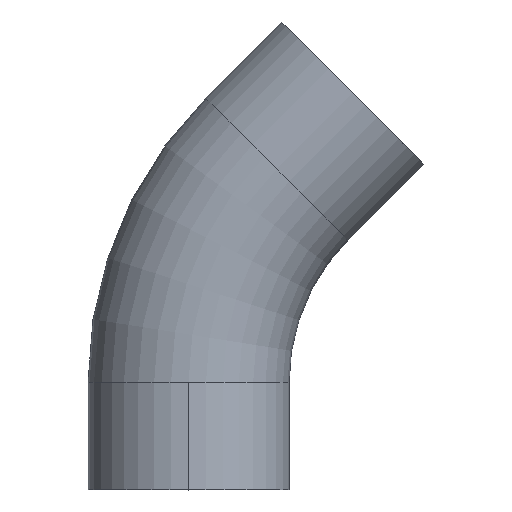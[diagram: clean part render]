
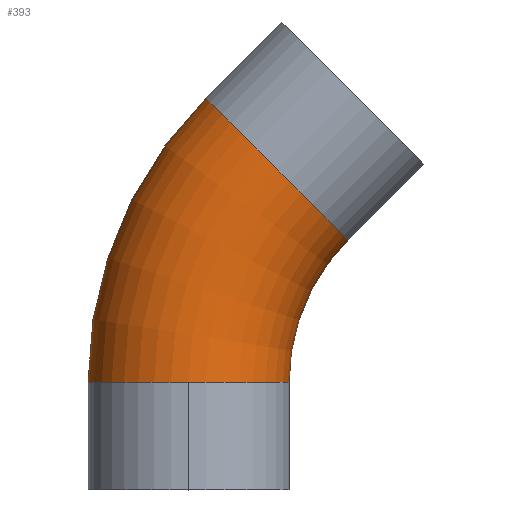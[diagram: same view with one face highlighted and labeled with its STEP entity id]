
A CAD part, top view. The second image highlights one B-rep face of the part: STEP entity #393.
In plain terms, the highlighted toroidal (fillet/blend) face has major radius 76.2 mm and minor radius 25.4 mm.
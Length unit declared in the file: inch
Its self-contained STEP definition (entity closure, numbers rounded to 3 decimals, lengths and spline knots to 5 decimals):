
#4 = TOROIDAL_SURFACE ( 'NONE', #194, 3., 1. ) ;
#12 = CARTESIAN_POINT ( 'NONE',  ( 0., 1.0694, 1. ) ) ;
#24 = DIRECTION ( 'NONE',  ( -1., 0., 0. ) ) ;
#33 = ORIENTED_EDGE ( 'NONE', *, *, #318, .F. ) ;
#44 = CARTESIAN_POINT ( 'NONE',  ( 1., 1.0694, 0. ) ) ;
#56 = CARTESIAN_POINT ( 'NONE',  ( -1., 1.0694, 0. ) ) ;
#63 = CARTESIAN_POINT ( 'NONE',  ( 0.17157, 3.89783, 0. ) ) ;
#80 = DIRECTION ( 'NONE',  ( 1., 0., 0. ) ) ;
#92 = DIRECTION ( 'NONE',  ( 0., 0., 1. ) ) ;
#95 = DIRECTION ( 'NONE',  ( 0., 0., 1. ) ) ;
#124 = CARTESIAN_POINT ( 'NONE',  ( 3., 1.0694, 0. ) ) ;
#138 = VERTEX_POINT ( 'NONE', #63 ) ;
#140 = VERTEX_POINT ( 'NONE', #384 ) ;
#185 = DIRECTION ( 'NONE',  ( 0., 1., 0. ) ) ;
#186 = AXIS2_PLACEMENT_3D ( 'NONE', #421, #185, #455 ) ;
#194 = AXIS2_PLACEMENT_3D ( 'NONE', #124, #405, #80 ) ;
#195 = ORIENTED_EDGE ( 'NONE', *, *, #333, .F. ) ;
#198 = FACE_OUTER_BOUND ( 'NONE', #462, .T. ) ;
#227 = DIRECTION ( 'NONE',  ( 0.707, 0.707, 0. ) ) ;
#241 = CIRCLE ( 'NONE', #287, 4. ) ;
#258 = CIRCLE ( 'NONE', #277, 1. ) ;
#271 = DIRECTION ( 'NONE',  ( 0., 1., 0. ) ) ;
#277 = AXIS2_PLACEMENT_3D ( 'NONE', #449, #227, #486 ) ;
#287 = AXIS2_PLACEMENT_3D ( 'NONE', #350, #95, #385 ) ;
#297 = VERTEX_POINT ( 'NONE', #44 ) ;
#314 = VERTEX_POINT ( 'NONE', #56 ) ;
#318 = EDGE_CURVE ( 'NONE', #140, #297, #452, .T. ) ;
#324 = EDGE_CURVE ( 'NONE', #314, #373, #436, .T. ) ;
#325 = EDGE_CURVE ( 'NONE', #138, #314, #241, .T. ) ;
#326 = ORIENTED_EDGE ( 'NONE', *, *, #324, .T. ) ;
#331 = AXIS2_PLACEMENT_3D ( 'NONE', #482, #271, #24 ) ;
#333 = EDGE_CURVE ( 'NONE', #138, #140, #258, .T. ) ;
#348 = CARTESIAN_POINT ( 'NONE',  ( 3., 1.0694, 0. ) ) ;
#350 = CARTESIAN_POINT ( 'NONE',  ( 3., 1.0694, 0. ) ) ;
#364 = AXIS2_PLACEMENT_3D ( 'NONE', #348, #92, #383 ) ;
#373 = VERTEX_POINT ( 'NONE', #12 ) ;
#383 = DIRECTION ( 'NONE',  ( 1., 0., 0. ) ) ;
#384 = CARTESIAN_POINT ( 'NONE',  ( 1.58579, 2.48361, 0. ) ) ;
#385 = DIRECTION ( 'NONE',  ( 1., 0., 0. ) ) ;
#393 = ADVANCED_FACE ( 'NONE', ( #198 ), #4, .T. ) ;
#405 = DIRECTION ( 'NONE',  ( 0., 0., 1. ) ) ;
#406 = ORIENTED_EDGE ( 'NONE', *, *, #325, .T. ) ;
#410 = CIRCLE ( 'NONE', #186, 1. ) ;
#421 = CARTESIAN_POINT ( 'NONE',  ( 0., 1.0694, 0. ) ) ;
#429 = ORIENTED_EDGE ( 'NONE', *, *, #453, .T. ) ;
#436 = CIRCLE ( 'NONE', #331, 1. ) ;
#449 = CARTESIAN_POINT ( 'NONE',  ( 0.87868, 3.19072, 0. ) ) ;
#452 = CIRCLE ( 'NONE', #364, 2. ) ;
#453 = EDGE_CURVE ( 'NONE', #373, #297, #410, .T. ) ;
#455 = DIRECTION ( 'NONE',  ( -1., 0., 0. ) ) ;
#462 = EDGE_LOOP ( 'NONE', ( #195, #406, #326, #429, #33 ) ) ;
#482 = CARTESIAN_POINT ( 'NONE',  ( 0., 1.0694, 0. ) ) ;
#486 = DIRECTION ( 'NONE',  ( -0.707, 0.707, 0. ) ) ;
